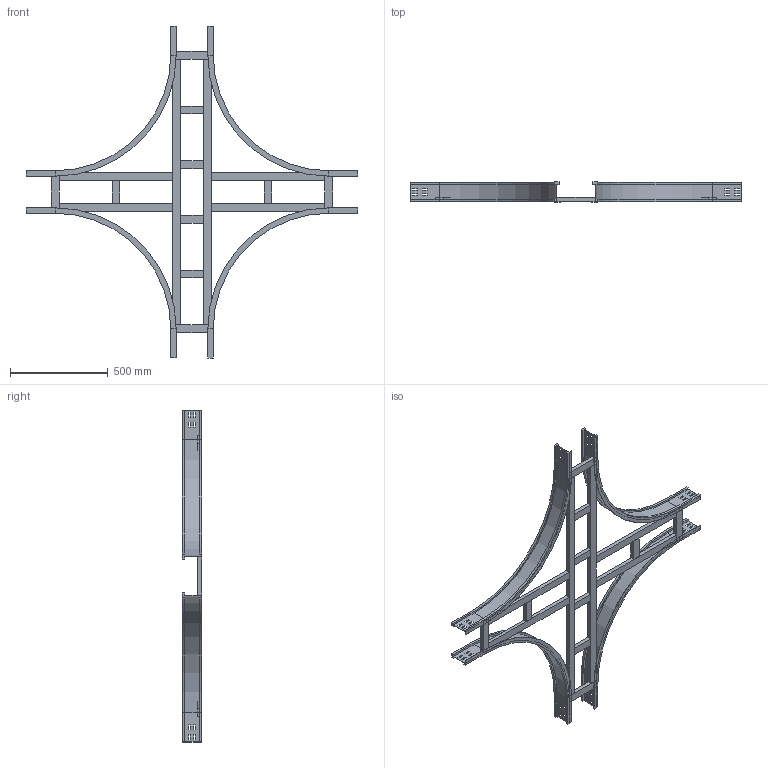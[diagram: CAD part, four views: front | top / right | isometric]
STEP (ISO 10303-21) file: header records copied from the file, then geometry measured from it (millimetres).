
FILE_DESCRIPTION (( 'STEP AP214' ), '1' );
FILE_NAME ('17S6D200.step', '2025-02-21T16:16:24', ( '' ), ( '' ), 'SwSTEP 2.0', 'SolidWorks 2023', '' );
FILE_SCHEMA (( 'AUTOMOTIVE_DESIGN' ));
Length unit declared in the file: millimetre
Products named in the file (7): LONGH.INTERNO 90°_H100_R600; TRAVERSINO_LONG._R600+200; TRAVERSINO_200; 17S6D200; TRAVERSINO_COPPIA_200; TRAVERSINO_VERT_R600; TRAVERSINO_INTERMEDIO_X_R600+200
Assembly tree (20 placements, depth 2):
  17S6D200
    LONGH.INTERNO 90°_H100_R600  x4
    TRAVERSINO_200  x4
    TRAVERSINO_LONG._R600+200  x2
    TRAVERSINO_INTERMEDIO_X_R600+200  x4
    TRAVERSINO_VERT_R600  x4
    TRAVERSINO_COPPIA_200  x2
Bounding box: 1700 x 100 x 1700 mm (x, y, z)
Volume: 7914751.9 mm3; surface area: 2287893 mm2
Topology: 20 solids, 20 shells, 376 faces, 912 edges, 576 vertices
Faces by surface type: plane 352, cylinder 24
Entity records: 3188 total; most frequent: CARTESIAN_POINT 515, DIRECTION 498, ORIENTED_EDGE 480, EDGE_CURVE 240, VECTOR 228, LINE 228, VERTEX_POINT 152, AXIS2_PLACEMENT_3D 135
